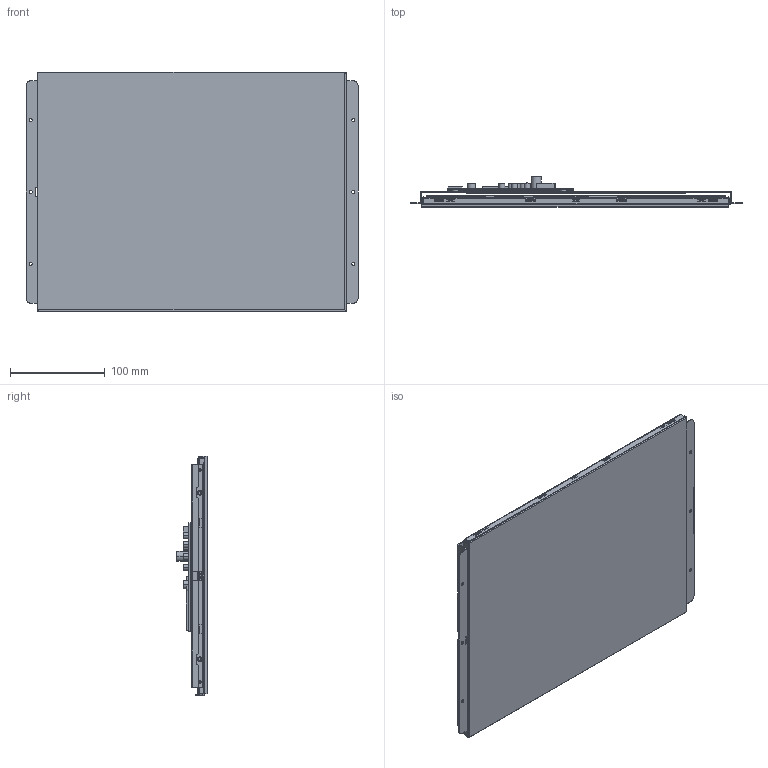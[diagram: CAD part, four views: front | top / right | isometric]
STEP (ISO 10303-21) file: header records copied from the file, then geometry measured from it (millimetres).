
FILE_DESCRIPTION((''),'2;1');
FILE_NAME('3D-DMG10768T150-01WTC-211210_1__ASM','2023-04-26T',('Administrator'),(''),'PRO/ENGINEER BY PARAMETRIC TECHNOLOGY CORPORATION, 2011310','PRO/ENGINEER BY PARAMETRIC TECHNOLOGY CORPORATION, 2011310','');
FILE_SCHEMA(('CONFIG_CONTROL_DESIGN','SHAPE_APPEARANCE_LAYERS_GROUPS'));
Products named in the file (8): TK150003A_29; BREP_WITH_VOIDS_57271; MANIFOLD_SOLID_BREP_57421; HM150X01-N0_7_ASM; DMG10768T150-01WTC_6; TP_4; DMG10768T150-01WTC_ASM_18_ASM; 3D-DMG10768T150-01WTC-211210_1__ASM
Assembly tree (7 placements, depth 4):
  3D-DMG10768T150-01WTC-211210_1__ASM
    DMG10768T150-01WTC_ASM_18_ASM
      TK150003A_29
      HM150X01-N0_7_ASM
        BREP_WITH_VOIDS_57271
        MANIFOLD_SOLID_BREP_57421
      DMG10768T150-01WTC_6
      TP_4
Bounding box: 351 x 32.1 x 253.5 mm (x, y, z)
Volume: 517043.6 mm3; surface area: 780116.7 mm2
Topology: 5 solids, 7 shells, 1805 faces, 21046 edges, 29559 vertices
Faces by surface type: plane 1312, cylinder 410, torus 47, sphere 20, cone 12, bspline 4
Entity records: 197367 total; most frequent: DIRECTION 29973, CARTESIAN_POINT 26828, PRESENTATION_STYLE_ASSIGNMENT 17137, STYLED_ITEM 17137, CURVE_STYLE 16759, TRIMMED_CURVE 16014, VECTOR 15573, LINE 15573
